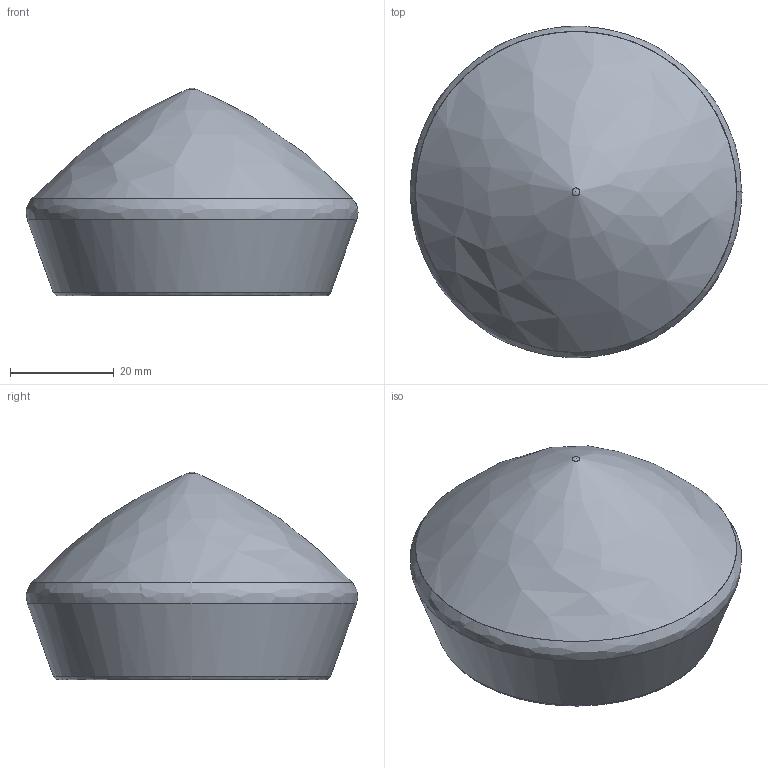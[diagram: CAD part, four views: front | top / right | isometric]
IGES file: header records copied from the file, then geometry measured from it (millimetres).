
Start section: C
Global section: file name: 8055.igs; native system: By Siemens PLM Incorporated; preprocessor: XPlus GENERIC/IGES 16.0.42; author: Author; organization: Title; date: 20231128.134744; units: millimetre
Bounding box: 64 x 64 x 40 mm (x, y, z)
Surface area: 13856.1 mm2 (no closed solid volume)
Topology: 0 solids, 0 shells, 10 faces, 56 edges, 54 vertices
Faces by surface type: bspline 10
